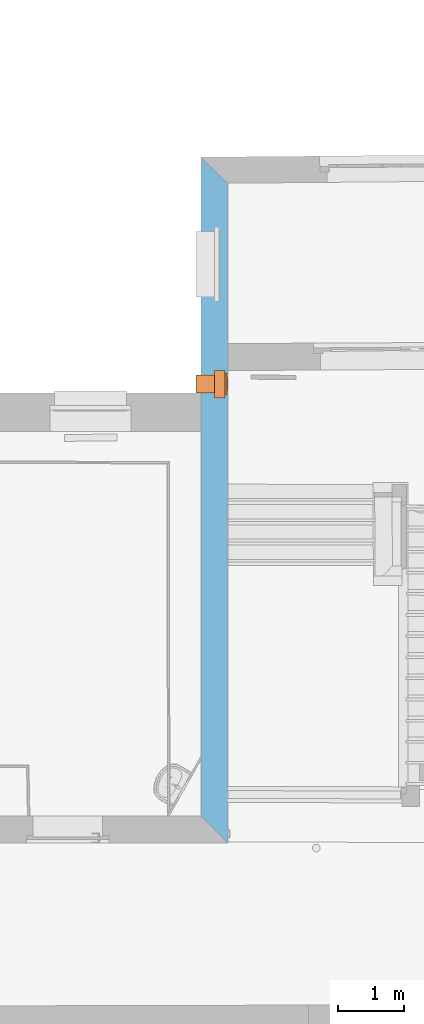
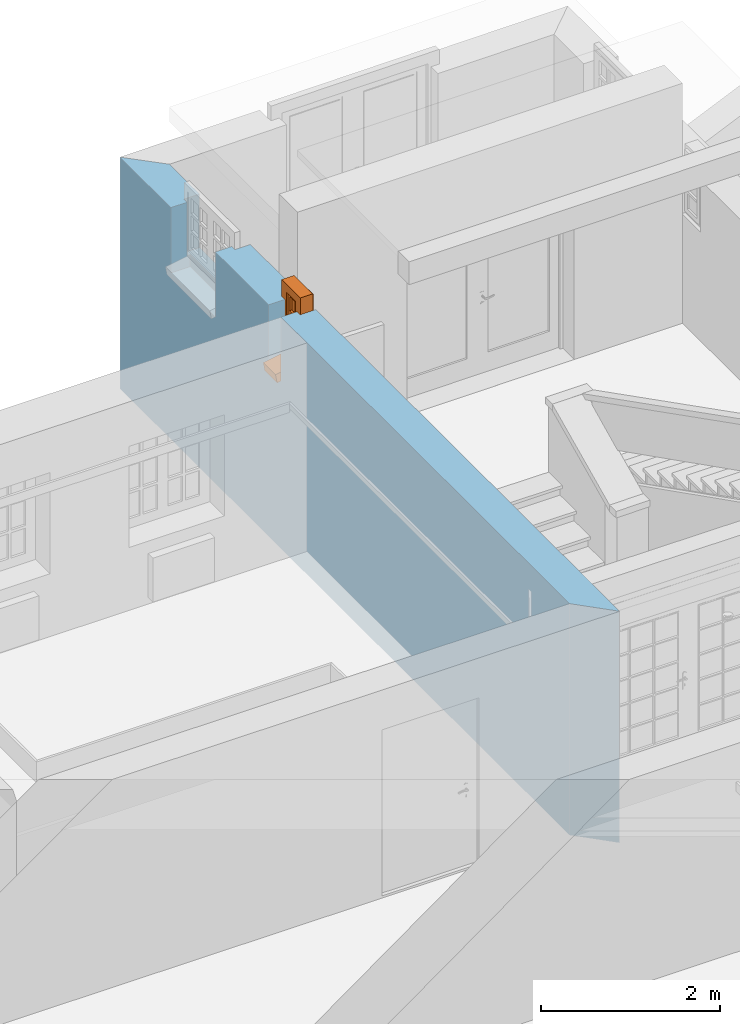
# One storey, part 29 of 196: 1 proxy, 2 openings, plus 1 element that does not belong to this part.
"""IFC2X3 building model written with IfcOpenShell, lengths in metres."""

import ifcopenshell
import ifcopenshell.guid

model = None  # the IFC model being written
_history = None  # IfcOwnerHistory: only IFC2X3 demands one
_inside = {}  # id of a spatial element -> (the spatial element, [elements in it])
_under = {}  # id of a project, library or spatial element -> (it, [spatial elements below it])
_declared = {}  # id of a project -> (the project, [libraries it declares])
_typed = {}  # id of a type object -> (the type object, [elements of that type])
_made_of = {}  # id of a material, layer set ... -> (it, [elements and type objects made of it])


def new_model(schema):
    """Start an empty IFC model of exactly this schema.

    Asked for "IFC4X3", IfcOpenShell would pick the latest addendum, in which some entities
    have other attributes; the version numbers below select the first issue.
    IFC2X3 requires an IfcOwnerHistory on every rooted entity: one is made here for all.
    """
    global model, _history
    if schema == "IFC4X3":
        model = ifcopenshell.file(schema_version=(4, 3, 0, 0))
    else:
        model = ifcopenshell.file(schema=schema)
    _inside.clear()
    _under.clear()
    _declared.clear()
    _typed.clear()
    _made_of.clear()
    _history = None
    if model.schema == "IFC2X3":
        org = make("IfcOrganization", Name="unknown")
        user = make(
            "IfcPersonAndOrganization",
            ThePerson=make("IfcPerson", FamilyName="unknown"),
            TheOrganization=org,
        )
        app = make(
            "IfcApplication",
            ApplicationDeveloper=org,
            Version="unknown",
            ApplicationFullName="unknown",
            ApplicationIdentifier="unknown",
        )
        _history = make(
            "IfcOwnerHistory",
            OwningUser=user,
            OwningApplication=app,
            ChangeAction="ADDED",
            CreationDate=0,
        )
    return model


def make(cls, **values):
    """One entity of the class cls with the attributes given. An attribute that is None is left unset."""
    return model.create_entity(
        cls, **{name: value for name, value in values.items() if value is not None}
    )


def entity(cls, *values):
    """Any entity or typed value of the class cls, its attributes in the order of the schema. None: left unset."""
    e = model.create_entity(cls)
    for i, value in enumerate(values):
        if value is not None:
            e[i] = value
    return e


def rooted(cls, **values):
    """An entity with a GlobalId (a new one), such as an element, a storey or a relation."""
    return make(cls, GlobalId=ifcopenshell.guid.new(), OwnerHistory=_history, **values)


def si_unit(unit_type, name, prefix=None):
    """IfcSIUnit, for example si_unit("LENGTHUNIT", "METRE", prefix="MILLI")."""
    return make("IfcSIUnit", UnitType=unit_type, Prefix=prefix, Name=name)


def converted_unit(unit_type, name, factor, base, dimensions=None, offset=None):
    """IfcConversionBasedUnit, such as the inch: factor (a typed value) times the base unit."""
    return make(
        "IfcConversionBasedUnit"
        if offset is None
        else "IfcConversionBasedUnitWithOffset",
        ConversionOffset=offset,
        Dimensions=None
        if dimensions is None
        else entity("IfcDimensionalExponents", *dimensions),
        UnitType=unit_type,
        Name=name,
        ConversionFactor=make(
            "IfcMeasureWithUnit", ValueComponent=factor, UnitComponent=base
        ),
    )


def derived_unit(unit_type, elements):
    """IfcDerivedUnit: a product of units, each with its exponent."""
    return make(
        "IfcDerivedUnit",
        Elements=[
            make("IfcDerivedUnitElement", Unit=unit, Exponent=power)
            for unit, power in elements
        ],
        UnitType=unit_type,
    )


def money_unit(currency):
    """IfcMonetaryUnit."""
    return make("IfcMonetaryUnit", Currency=currency)


def assignment(units):
    """IfcUnitAssignment: the units of a project."""
    return None if units is None else make("IfcUnitAssignment", Units=units)


def point(xyz):
    """IfcCartesianPoint."""
    return None if xyz is None else make("IfcCartesianPoint", Coordinates=xyz)


def direction(xyz):
    """IfcDirection."""
    return None if xyz is None else make("IfcDirection", DirectionRatios=xyz)


def frame(location, z_axis=None, x_axis=None):
    """IfcAxis2Placement3D, a coordinate frame: its origin and axes. An axis left out is left unset."""
    return make(
        "IfcAxis2Placement3D",
        Location=point(location),
        Axis=direction(z_axis),
        RefDirection=direction(x_axis),
    )


def frame_2d(location, x_axis=None):
    """IfcAxis2Placement2D, a coordinate frame in the plane: its origin and x axis."""
    return make(
        "IfcAxis2Placement2D", Location=point(location), RefDirection=direction(x_axis)
    )


def origin_with_axes():
    """The frame at (0, 0, 0) with the z axis (0, 0, 1) and the x axis (1, 0, 0) written out."""
    return frame((0.0, 0.0, 0.0), z_axis=(0.0, 0.0, 1.0), x_axis=(1.0, 0.0, 0.0))


def origin_2d_with_axis():
    """The frame at (0, 0) in the plane with the x axis (1, 0) written out."""
    return frame_2d((0.0, 0.0), x_axis=(1.0, 0.0))


def place(relative_to, where):
    """IfcLocalPlacement: puts the frame where relative to a parent placement (None: the world)."""
    return make(
        "IfcLocalPlacement", PlacementRelTo=relative_to, RelativePlacement=where
    )


def context(
    kind, dimensions, precision=None, world=None, true_north=None, identifier=None
):
    """IfcGeometricRepresentationContext, for example the 3D "Model" context."""
    return make(
        "IfcGeometricRepresentationContext",
        ContextIdentifier=identifier,
        ContextType=kind,
        CoordinateSpaceDimension=dimensions,
        Precision=precision,
        WorldCoordinateSystem=world,
        TrueNorth=true_north,
    )


def subcontext(parent, identifier, kind, view, scale=None):
    """IfcGeometricRepresentationSubContext, for example "Body" below "Model"."""
    return make(
        "IfcGeometricRepresentationSubContext",
        ContextIdentifier=identifier,
        ContextType=kind,
        ParentContext=parent,
        TargetScale=scale,
        TargetView=view,
    )


def project(units=None, contexts=None):
    """IfcProject with its units and contexts."""
    return rooted(
        "IfcProject",
        Name="project",
        RepresentationContexts=contexts,
        UnitsInContext=assignment(units),
    )


def spatial(cls, under=None, at=None, **own):
    """A site, building, storey or space (cls), placed at a placement, below another one or the project."""
    s = rooted(cls, ObjectPlacement=at, **own)
    if under is not None:
        _under.setdefault(under.id(), (under, []))[1].append(s)
    return s


def polyline(points):
    """IfcPolyline through the points."""
    return make("IfcPolyline", Points=[point(p) for p in points])


def profile(cls, at=None, kind="AREA", **sizes):
    """A parametric profile (cls). Its sizes go by their IFC names, for example OverallWidth=200.0."""
    return make(cls, ProfileType=kind, Position=at, **sizes)


def rectangle(**sizes):
    """IfcRectangleProfileDef."""
    return profile("IfcRectangleProfileDef", **sizes)


def outline(outer, holes=None, kind="AREA"):
    """IfcArbitraryClosedProfileDef: a profile drawn as a closed curve; with holes, ...WithVoids."""
    if holes is None:
        return make("IfcArbitraryClosedProfileDef", ProfileType=kind, OuterCurve=outer)
    return make(
        "IfcArbitraryProfileDefWithVoids",
        ProfileType=kind,
        OuterCurve=outer,
        InnerCurves=holes,
    )


def extrude(swept, where, along, depth):
    """IfcExtrudedAreaSolid: the profile swept, set in the frame where, extruded along a direction by depth."""
    return make(
        "IfcExtrudedAreaSolid",
        SweptArea=swept,
        Position=where,
        ExtrudedDirection=direction(along),
        Depth=depth,
    )


def faces_of(points, faces, orient=None, outer=None):
    """IfcFace entities. A face is a list of loops; a loop is a list of indices into points, from 0.

    orient and outer hold one flag for each loop. By default every Orientation is true, the
    first loop of a face is its IfcFaceOuterBound and the others are IfcFaceBound.
    """
    made = []
    for i, loops in enumerate(faces):
        bounds = []
        for j, loop in enumerate(loops):
            is_outer = j == 0 if outer is None else outer[i][j]
            bounds.append(
                make(
                    "IfcFaceOuterBound" if is_outer else "IfcFaceBound",
                    Bound=make("IfcPolyLoop", Polygon=[points[k] for k in loop]),
                    Orientation=True if orient is None else orient[i][j],
                )
            )
        made.append(make("IfcFace", Bounds=bounds))
    return made


def faceted_brep(points, faces, orient=None, outer=None, voids=None):
    """IfcFacetedBrep: a solid bounded by flat faces; with voids (closed shells), ...WithVoids."""
    shared = [point(p) for p in points]
    hull = make("IfcClosedShell", CfsFaces=faces_of(shared, faces, orient, outer))
    if voids is None:
        return make("IfcFacetedBrep", Outer=hull)
    return make(
        "IfcFacetedBrepWithVoids",
        Outer=hull,
        Voids=[
            make(cls, CfsFaces=faces_of(shared, fs, o, b)) for cls, fs, o, b in voids
        ],
    )


def shape(context_of_items, identifier, shape_type, items):
    """IfcShapeRepresentation: the items that make up one representation, for example the "Body"."""
    return make(
        "IfcShapeRepresentation",
        ContextOfItems=context_of_items,
        RepresentationIdentifier=identifier,
        RepresentationType=shape_type,
        Items=items,
    )


def source(mapping_origin, context_of_items, identifier, shape_type, items):
    """IfcRepresentationMap: a shape defined once, which mapped items show again and again."""
    return make(
        "IfcRepresentationMap",
        MappingOrigin=mapping_origin,
        MappedRepresentation=shape(context_of_items, identifier, shape_type, items),
    )


def transform(
    local_origin,
    x_axis=None,
    y_axis=None,
    z_axis=None,
    scale=None,
    scale2=None,
    scale3=None,
    uniform=True,
):
    """IfcCartesianTransformationOperator3D, or its non-uniform kind. x_axis, y_axis, z_axis: its Axis1, 2, 3."""
    if uniform:
        return make(
            "IfcCartesianTransformationOperator3D",
            Axis1=direction(x_axis),
            Axis2=direction(y_axis),
            LocalOrigin=point(local_origin),
            Scale=scale,
            Axis3=direction(z_axis),
        )
    return make(
        "IfcCartesianTransformationOperator3DnonUniform",
        Axis1=direction(x_axis),
        Axis2=direction(y_axis),
        LocalOrigin=point(local_origin),
        Scale=scale,
        Axis3=direction(z_axis),
        Scale2=scale2,
        Scale3=scale3,
    )


def mapped(mapping_source, mapping_target):
    """IfcMappedItem: shows the shape of a source again, moved by a transform."""
    return make(
        "IfcMappedItem", MappingSource=mapping_source, MappingTarget=mapping_target
    )


def material(Name=None, Category=None):
    """IfcMaterial."""
    return make("IfcMaterial", Name=Name, Category=Category)


def layer(
    of_material, thickness, ventilated=None, Name=None, Category=None, Priority=None
):
    """IfcMaterialLayer: one layer of a wall or slab, of a material (None: an air gap)."""
    return make(
        "IfcMaterialLayer",
        Material=of_material,
        LayerThickness=thickness,
        IsVentilated=ventilated,
        Name=Name,
        Category=Category,
        Priority=Priority,
    )


def layer_set(layers, Name=None):
    """IfcMaterialLayerSet."""
    return make("IfcMaterialLayerSet", MaterialLayers=layers, LayerSetName=Name)


def layer_usage(for_layer_set, set_direction, sense, offset, extent=None):
    """IfcMaterialLayerSetUsage: how a layer set lies in its element."""
    return make(
        "IfcMaterialLayerSetUsage",
        ForLayerSet=for_layer_set,
        LayerSetDirection=set_direction,
        DirectionSense=sense,
        OffsetFromReferenceLine=offset,
        ReferenceExtent=extent,
    )


def made_of(thing, what):
    """Note that an element or type object is made of a material, layer set ...; save() writes the relation."""
    if what is not None:
        _made_of.setdefault(what.id(), (what, []))[1].append(thing)
    return thing


def type_object(cls, material=None, **own):
    """A type object (cls), such as IfcWallType, which elements share."""
    return made_of(rooted(cls, **own), material)


def element(
    cls,
    number,
    at=None,
    inside=None,
    cuts=None,
    type_object=None,
    material=None,
    context=None,
    identifier="Body",
    shape_type=None,
    held_by="IfcProductDefinitionShape",
    body=None,
    shapes=None,
    **own,
):
    """One element of the class cls, such as IfcWall. Its Tag is "e" and its number.

    at: its placement. inside: the storey or other place that contains it. cuts: it is an
    opening in that element (IfcRelVoidsElement). A single representation is given by context,
    identifier, shape_type and body (its items); several are given by shapes. held_by: the class
    of the entity that holds the representations. save() writes the other relations.
    """
    e = rooted(cls, Tag="e%d" % number, ObjectPlacement=at, **own)
    if body is not None:
        shapes = [shape(context, identifier, shape_type, body)]
    if shapes is not None:
        e.Representation = make(held_by, Representations=shapes)
    if inside is not None:
        _inside.setdefault(inside.id(), (inside, []))[1].append(e)
    if cuts is not None:
        rooted(
            "IfcRelVoidsElement", RelatingBuildingElement=cuts, RelatedOpeningElement=e
        )
    if type_object is not None:
        _typed.setdefault(type_object.id(), (type_object, []))[1].append(e)
    return made_of(e, material)


def fill(opening, filler):
    """IfcRelFillsElement: the door or window that sits in an opening."""
    return rooted(
        "IfcRelFillsElement",
        RelatingOpeningElement=opening,
        RelatedBuildingElement=filler,
    )


def aggregate(whole, parts):
    """IfcRelAggregates: a whole, such as a stair, and the parts it consists of."""
    return rooted("IfcRelAggregates", RelatingObject=whole, RelatedObjects=parts)


def save(model, path):
    """Write the relations noted so far, then the file.

    IfcRelAggregates (storeys below a building ...), IfcRelContainedInSpatialStructure (elements
    in a storey), IfcRelDefinesByType, IfcRelAssociatesMaterial and IfcRelDeclares: one each for
    every whole, place, type object, material and project.
    """
    for whole, parts in _under.values():
        aggregate(whole, parts)
    for where, things in _inside.values():
        rooted(
            "IfcRelContainedInSpatialStructure",
            RelatedElements=things,
            RelatingStructure=where,
        )
    for kind, things in _typed.values():
        rooted("IfcRelDefinesByType", RelatedObjects=things, RelatingType=kind)
    for what, things in _made_of.values():
        rooted("IfcRelAssociatesMaterial", RelatedObjects=things, RelatingMaterial=what)
    for by, libraries in _declared.values():
        rooted("IfcRelDeclares", RelatingContext=by, RelatedDefinitions=libraries)
    model.write(path)


model = new_model("IFC2X3")

# Units and contexts
model_context = context("Model", 3, precision=1e-05, world=origin_with_axes(), true_north=direction((0.0, 1.0)))
body_context = subcontext(model_context, "Body", "Model", "MODEL_VIEW")
ifc_project = project(units=[si_unit("LENGTHUNIT", "METRE"), si_unit("AREAUNIT", "SQUARE_METRE"), si_unit("VOLUMEUNIT", "CUBIC_METRE"), converted_unit("PLANEANGLEUNIT", "DEGREE", entity("IfcPlaneAngleMeasure", 0.0174532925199), si_unit("PLANEANGLEUNIT", "RADIAN"), dimensions=[0, 0, 0, 0, 0, 0, 0]), money_unit("EUR"), converted_unit("TIMEUNIT", "Year", entity("IfcTimeMeasure", 31556926.0), si_unit("TIMEUNIT", "SECOND"), dimensions=[0, 0, 1, 0, 0, 0, 0]), si_unit("MASSUNIT", "GRAM", prefix="KILO"), si_unit("THERMODYNAMICTEMPERATUREUNIT", "DEGREE_CELSIUS"), si_unit("LUMINOUSINTENSITYUNIT", "LUMEN"), si_unit("ENERGYUNIT", "JOULE", prefix="MEGA"), derived_unit("THERMALCONDUCTANCEUNIT", [(si_unit("POWERUNIT", "WATT"), 1), (si_unit("LENGTHUNIT", "METRE"), -1), (si_unit("THERMODYNAMICTEMPERATUREUNIT", "KELVIN"), -1)]), derived_unit("SPECIFICHEATCAPACITYUNIT", [(si_unit("ENERGYUNIT", "JOULE"), 1), (si_unit("MASSUNIT", "GRAM", prefix="KILO"), -1), (si_unit("THERMODYNAMICTEMPERATUREUNIT", "KELVIN"), -1)]), derived_unit("MASSDENSITYUNIT", [(si_unit("MASSUNIT", "GRAM", prefix="KILO"), 1), (si_unit("VOLUMEUNIT", "CUBIC_METRE"), -1)])], contexts=[model_context])

# Site, building, storey
site_placement = place(None, origin_with_axes())
site = spatial("IfcSite", under=ifc_project, at=site_placement, Name="Gelände", CompositionType="ELEMENT")
building_placement = place(site_placement, origin_with_axes())
building = spatial("IfcBuilding", under=site, at=building_placement, Name="Gebäude", CompositionType="ELEMENT")
storey_placement = place(building_placement, frame((0.0, 0.0, -3.0), z_axis=(0.0, 0.0, 1.0), x_axis=(1.0, 0.0, 0.0)))
storey = spatial("IfcBuildingStorey", under=building, at=storey_placement, Name="KELLERGESCHOSS", CompositionType="ELEMENT", Elevation=-3.0)

# Wall, openings, proxy
ifc_material = material(Name="05_ALLGEMEIN - TRAGENDE BAUTEILE")
ifc_layer = layer(ifc_material, 0.41, ventilated="UNKNOWN")
ifc_layer_set = layer_set([ifc_layer], Name="05_ALLGEMEIN - TRAGENDE BAUTEILE 0.41")
ifc_layer_usage = layer_usage(ifc_layer_set, "AXIS2", "NEGATIVE", 0.41)
wall_type = type_object("IfcWallType", Name="05_ALLGEMEIN - TRAGENDE BAUTEILE 410", PredefinedType="ELEMENTEDWALL")
wall_placement = place(storey_placement, frame((-9.84148103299, 19.2659840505, -0.36), z_axis=(0.0, 0.0, 1.0), x_axis=(-9.41336570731e-05, 0.999999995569, 0.0)))
wall = element("IfcWallStandardCase", 1, at=wall_placement, inside=storey, type_object=wall_type, material=ifc_layer_usage, Name="Wand-038", ObjectType="ELEMENTEDWALL", context=body_context, shape_type="SweptSolid", body=[
    extrude(outline(polyline([(0.0, 0.0), (10.0297381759, 0.0), (10.426267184, 0.41), (0.409925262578, 0.41), (0.0, 0.0)])), origin_with_axes(), (0.0, 0.0, 1.0), 3.15),
])
opening_1_placement = place(wall_placement, frame((8.79632693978, 0.0, 2.42470466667), z_axis=(0.0, 0.0, 1.0), x_axis=(1.0, 0.0, 0.0)))
element("IfcOpeningElement", 2, at=opening_1_placement, cuts=wall, Name="Fenster-015", context=body_context, shape_type="SweptSolid", body=[
    extrude(rectangle(XDim=0.991326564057, YDim=0.884032, at=origin_2d_with_axis()), frame((0.0, 0.201578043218, 0.442016), z_axis=(0.0, -1.0, 0.0), x_axis=(-1.0, 0.0, 0.0)), (0.0, 0.0, -1.0), 0.618421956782),
    extrude(rectangle(XDim=1.13132656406, YDim=0.954032, at=origin_2d_with_axis()), frame((0.0, 0.201578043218, 0.477016), z_axis=(0.0, 1.0, 0.0), x_axis=(-1.0, 0.0, 0.0)), (0.0, 0.0, -1.0), 0.611578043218),
    extrude(rectangle(XDim=0.991326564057, YDim=0.162128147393, at=origin_2d_with_axis()), frame((0.0, 0.160740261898, -0.0810640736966), z_axis=(0.0, -1.0, 0.0), x_axis=(-1.0, 0.0, 0.0)), (0.0, 0.0, -1.0), 0.45083778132),
])
opening_2_placement = place(wall_placement, frame((6.97472393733, 0.0, 2.44235066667), z_axis=(0.0, 0.0, 1.0), x_axis=(1.0, 0.0, 0.0)))
opening_2 = element("IfcOpeningElement", 3, at=opening_2_placement, cuts=wall, Name="Fenster-015", context=body_context, shape_type="SweptSolid", body=[
    extrude(rectangle(XDim=0.274211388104, YDim=0.866964, at=origin_2d_with_axis()), frame((0.0, 0.201578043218, 0.433482), z_axis=(0.0, -1.0, 0.0), x_axis=(-1.0, 0.0, 0.0)), (0.0, 0.0, -1.0), 0.618421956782),
    extrude(rectangle(XDim=0.414211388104, YDim=0.936964, at=origin_2d_with_axis()), frame((0.0, 0.201578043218, 0.468482), z_axis=(0.0, 1.0, 0.0), x_axis=(-1.0, 0.0, 0.0)), (0.0, 0.0, -1.0), 0.611578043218),
    extrude(rectangle(XDim=0.274211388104, YDim=0.162128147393, at=origin_2d_with_axis()), frame((0.0, 0.160740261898, -0.0810640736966), z_axis=(0.0, -1.0, 0.0), x_axis=(-1.0, 0.0, 0.0)), (0.0, 0.0, -1.0), 0.45083778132),
])
building_element_proxy_type = type_object("IfcBuildingElementProxyType", Name="F Altbau 1-Fl 25", PredefinedType="NOTDEFINED")
shared_shape = source(origin_with_axes(), body_context, "Body", "Brep", [
    faceted_brep([(-0.137105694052, -0.14, 0.0), (-0.137105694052, -0.439259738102, -0.0527675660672), (0.137105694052, -0.439259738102, -0.0527675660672), (0.137105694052, -0.14, 0.0), (-0.137105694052, -0.11916221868, -0.118176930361), (-0.137105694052, -0.418421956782, -0.170944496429), (0.137105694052, -0.418421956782, -0.170944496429), (0.137105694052, -0.11916221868, -0.118176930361)], [[[0, 1, 2, 3]], [[0, 4, 5, 1]], [[1, 5, 6, 2]], [[3, 2, 6, 7]], [[4, 0, 3, 7]], [[5, 4, 7, 6]]]),
    faceted_brep([(-0.207105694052, -0.16, 0.0), (-0.207105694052, -0.14, 0.0), (-0.0971056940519, -0.14, 0.09), (-0.0971056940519, -0.16, 0.09), (-0.207105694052, -0.16, 0.936964), (-0.207105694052, -0.14, 0.936964), (-0.0971056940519, -0.14, 0.826964), (-0.0971056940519, -0.16, 0.826964)], [[[0, 1, 2, 3]], [[4, 5, 1, 0]], [[1, 5, 6, 2]], [[3, 2, 6, 7]], [[0, 3, 7, 4]], [[7, 6, 5, 4]]]),
    faceted_brep([(0.207105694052, -0.16, 0.0), (0.0971056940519, -0.16, 0.09), (0.0971056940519, -0.14, 0.09), (0.207105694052, -0.14, 0.0), (0.207105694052, -0.16, 0.936964), (0.0971056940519, -0.16, 0.826964), (0.0971056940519, -0.14, 0.826964), (0.207105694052, -0.14, 0.936964)], [[[0, 1, 2, 3]], [[0, 4, 5, 1]], [[1, 5, 6, 2]], [[3, 2, 6, 7]], [[4, 0, 3, 7]], [[5, 4, 7, 6]]]),
    faceted_brep([(-0.207105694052, -0.16, 0.0), (-0.207105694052, -0.14, 0.0), (0.207105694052, -0.14, 0.0), (0.207105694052, -0.16, 0.0), (-0.0971056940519, -0.16, 0.09), (-0.0971056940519, -0.14, 0.09), (0.0971056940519, -0.14, 0.09), (0.0971056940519, -0.16, 0.09)], [[[0, 1, 2, 3]], [[4, 5, 1, 0]], [[1, 5, 6, 2]], [[3, 2, 6, 7]], [[0, 3, 7, 4]], [[7, 6, 5, 4]]]),
    faceted_brep([(-0.207105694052, -0.16, 0.936964), (-0.207105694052, -0.14, 0.936964), (-0.0971056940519, -0.14, 0.826964), (-0.0971056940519, -0.16, 0.826964), (0.207105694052, -0.16, 0.936964), (0.207105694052, -0.14, 0.936964), (0.0971056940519, -0.14, 0.826964), (0.0971056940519, -0.16, 0.826964)], [[[0, 1, 2, 3]], [[4, 5, 1, 0]], [[1, 5, 6, 2]], [[3, 2, 6, 7]], [[0, 3, 7, 4]], [[7, 6, 5, 4]]]),
    faceted_brep([(-0.207105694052, -0.14, 0.0), (-0.207105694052, -0.11, 0.0), (0.207105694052, -0.11, 0.0), (0.207105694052, -0.14, 0.0), (-0.207105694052, -0.14, 0.936964), (-0.207105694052, -0.11, 0.936964), (0.207105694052, -0.11, 0.936964), (-0.117105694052, -0.11, 0.09), (0.117105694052, -0.11, 0.09), (0.117105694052, -0.11, 0.846964), (-0.117105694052, -0.11, 0.846964), (0.207105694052, -0.14, 0.936964), (-0.117105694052, -0.14, 0.09), (-0.117105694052, -0.14, 0.846964), (0.117105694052, -0.14, 0.846964), (0.117105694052, -0.14, 0.09)], [[[0, 1, 2, 3]], [[4, 5, 1, 0]], [[1, 5, 6, 2], [7, 8, 9, 10]], [[3, 2, 6, 11]], [[0, 3, 11, 4], [12, 13, 14, 15]], [[11, 6, 5, 4]], [[15, 8, 7, 12]], [[14, 9, 8, 15]], [[13, 10, 9, 14]], [[12, 7, 10, 13]]]),
    faceted_brep([(-0.207105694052, -0.11, 0.0), (-0.207105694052, -0.03, 0.0), (0.207105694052, -0.03, 0.0), (0.207105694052, -0.11, 0.0), (-0.207105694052, -0.11, 0.936964), (-0.207105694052, -0.03, 0.936964), (0.207105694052, -0.03, 0.936964), (-0.147105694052, -0.03, 0.06), (0.147105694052, -0.03, 0.06), (0.147105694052, -0.03, 0.876964), (-0.147105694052, -0.03, 0.876964), (0.207105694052, -0.11, 0.936964), (-0.147105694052, -0.11, 0.06), (-0.147105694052, -0.11, 0.876964), (0.147105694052, -0.11, 0.876964), (0.147105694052, -0.11, 0.06)], [[[0, 1, 2, 3]], [[4, 5, 1, 0]], [[1, 5, 6, 2], [7, 8, 9, 10]], [[3, 2, 6, 11]], [[0, 3, 11, 4], [12, 13, 14, 15]], [[11, 6, 5, 4]], [[15, 8, 7, 12]], [[14, 9, 8, 15]], [[13, 10, 9, 14]], [[12, 7, 10, 13]]]),
    faceted_brep([(-0.207105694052, -0.03, 0.0), (-0.207105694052, 0.0, 0.0), (-0.167105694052, 0.0, 0.06), (-0.167105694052, -0.03, 0.06), (-0.207105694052, -0.03, 0.936964), (-0.207105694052, 0.0, 0.936964), (-0.167105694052, 0.0, 0.896964), (-0.167105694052, -0.03, 0.896964)], [[[0, 1, 2, 3]], [[4, 5, 1, 0]], [[1, 5, 6, 2]], [[3, 2, 6, 7]], [[0, 3, 7, 4]], [[7, 6, 5, 4]]]),
    faceted_brep([(0.207105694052, -0.03, 0.0), (0.167105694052, -0.03, 0.06), (0.167105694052, 0.0, 0.06), (0.207105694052, 0.0, 0.0), (0.207105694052, -0.03, 0.936964), (0.167105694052, -0.03, 0.896964), (0.167105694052, 0.0, 0.896964), (0.207105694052, 0.0, 0.936964)], [[[0, 1, 2, 3]], [[0, 4, 5, 1]], [[1, 5, 6, 2]], [[3, 2, 6, 7]], [[4, 0, 3, 7]], [[5, 4, 7, 6]]]),
    faceted_brep([(-0.207105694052, -0.03, 0.0), (-0.207105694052, 0.0, 0.0), (0.207105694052, 0.0, 0.0), (0.207105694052, -0.03, 0.0), (-0.167105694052, -0.03, 0.06), (-0.167105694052, 0.0, 0.06), (0.167105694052, 0.0, 0.06), (0.167105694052, -0.03, 0.06)], [[[0, 1, 2, 3]], [[4, 5, 1, 0]], [[1, 5, 6, 2]], [[3, 2, 6, 7]], [[0, 3, 7, 4]], [[7, 6, 5, 4]]]),
    faceted_brep([(-0.207105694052, -0.03, 0.936964), (-0.207105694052, 0.0, 0.936964), (-0.167105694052, 0.0, 0.896964), (-0.167105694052, -0.03, 0.896964), (0.207105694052, -0.03, 0.936964), (0.207105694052, 0.0, 0.936964), (0.167105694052, 0.0, 0.896964), (0.167105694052, -0.03, 0.896964)], [[[0, 1, 2, 3]], [[4, 5, 1, 0]], [[1, 5, 6, 2]], [[3, 2, 6, 7]], [[0, 3, 7, 4]], [[7, 6, 5, 4]]]),
    faceted_brep([(-0.117105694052, -0.14, 0.09), (-0.117105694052, -0.11, 0.09), (-0.0571056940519, -0.11, 0.15), (-0.0571056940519, -0.14, 0.15), (-0.117105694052, -0.14, 0.846964), (-0.117105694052, -0.11, 0.846964), (-0.0571056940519, -0.11, 0.786964), (-0.0571056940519, -0.14, 0.786964)], [[[0, 1, 2, 3]], [[4, 5, 1, 0]], [[1, 5, 6, 2]], [[3, 2, 6, 7]], [[0, 3, 7, 4]], [[7, 6, 5, 4]]]),
    faceted_brep([(-0.117105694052, -0.11, 0.09), (-0.117105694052, -0.08, 0.09), (-0.0571056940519, -0.08, 0.15), (-0.0571056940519, -0.11, 0.15), (-0.117105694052, -0.11, 0.846964), (-0.117105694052, -0.08, 0.846964), (-0.0571056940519, -0.08, 0.786964), (-0.0571056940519, -0.11, 0.786964)], [[[0, 1, 2, 3]], [[4, 5, 1, 0]], [[1, 5, 6, 2]], [[3, 2, 6, 7]], [[0, 3, 7, 4]], [[7, 6, 5, 4]]]),
    faceted_brep([(0.117105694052, -0.14, 0.09), (0.0571056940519, -0.14, 0.15), (0.0571056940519, -0.11, 0.15), (0.117105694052, -0.11, 0.09), (0.117105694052, -0.14, 0.846964), (0.0571056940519, -0.14, 0.786964), (0.0571056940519, -0.11, 0.786964), (0.117105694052, -0.11, 0.846964)], [[[0, 1, 2, 3]], [[0, 4, 5, 1]], [[1, 5, 6, 2]], [[3, 2, 6, 7]], [[4, 0, 3, 7]], [[5, 4, 7, 6]]]),
    faceted_brep([(0.117105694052, -0.11, 0.09), (0.0571056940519, -0.11, 0.15), (0.0571056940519, -0.08, 0.15), (0.117105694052, -0.08, 0.09), (0.117105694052, -0.11, 0.846964), (0.0571056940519, -0.11, 0.786964), (0.0571056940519, -0.08, 0.786964), (0.117105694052, -0.08, 0.846964)], [[[0, 1, 2, 3]], [[0, 4, 5, 1]], [[1, 5, 6, 2]], [[3, 2, 6, 7]], [[4, 0, 3, 7]], [[5, 4, 7, 6]]]),
    faceted_brep([(-0.117105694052, -0.14, 0.09), (-0.117105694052, -0.11, 0.09), (0.117105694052, -0.11, 0.09), (0.117105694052, -0.14, 0.09), (-0.0571056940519, -0.14, 0.15), (-0.0571056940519, -0.11, 0.15), (0.0571056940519, -0.11, 0.15), (0.0571056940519, -0.14, 0.15)], [[[0, 1, 2, 3]], [[4, 5, 1, 0]], [[1, 5, 6, 2]], [[3, 2, 6, 7]], [[0, 3, 7, 4]], [[7, 6, 5, 4]]]),
    faceted_brep([(-0.117105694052, -0.11, 0.09), (-0.117105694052, -0.08, 0.09), (0.117105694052, -0.08, 0.09), (0.117105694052, -0.11, 0.09), (-0.0571056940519, -0.11, 0.15), (-0.0571056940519, -0.08, 0.15), (0.0571056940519, -0.08, 0.15), (0.0571056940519, -0.11, 0.15)], [[[0, 1, 2, 3]], [[4, 5, 1, 0]], [[1, 5, 6, 2]], [[3, 2, 6, 7]], [[0, 3, 7, 4]], [[7, 6, 5, 4]]]),
    faceted_brep([(-0.117105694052, -0.14, 0.846964), (0.117105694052, -0.14, 0.846964), (0.117105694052, -0.11, 0.846964), (-0.117105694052, -0.11, 0.846964), (-0.0571056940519, -0.14, 0.786964), (0.0571056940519, -0.14, 0.786964), (0.0571056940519, -0.11, 0.786964), (-0.0571056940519, -0.11, 0.786964)], [[[0, 1, 2, 3]], [[0, 4, 5, 1]], [[1, 5, 6, 2]], [[3, 2, 6, 7]], [[4, 0, 3, 7]], [[5, 4, 7, 6]]]),
    faceted_brep([(-0.117105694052, -0.11, 0.846964), (0.117105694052, -0.11, 0.846964), (0.117105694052, -0.08, 0.846964), (-0.117105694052, -0.08, 0.846964), (-0.0571056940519, -0.11, 0.786964), (0.0571056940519, -0.11, 0.786964), (0.0571056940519, -0.08, 0.786964), (-0.0571056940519, -0.08, 0.786964)], [[[0, 1, 2, 3]], [[0, 4, 5, 1]], [[1, 5, 6, 2]], [[3, 2, 6, 7]], [[4, 0, 3, 7]], [[5, 4, 7, 6]]]),
    faceted_brep([(-0.0571056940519, -0.145, 0.338988), (-0.0571056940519, -0.11, 0.338988), (0.0571056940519, -0.11, 0.338988), (0.0571056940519, -0.145, 0.338988), (-0.0571056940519, -0.145, 0.373988), (-0.0571056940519, -0.11, 0.373988), (0.0571056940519, -0.11, 0.373988), (0.0571056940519, -0.145, 0.373988)], [[[0, 1, 2, 3]], [[4, 5, 1, 0]], [[1, 5, 6, 2]], [[3, 2, 6, 7]], [[0, 3, 7, 4]], [[7, 6, 5, 4]]]),
    faceted_brep([(-0.0571056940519, -0.11, 0.338988), (-0.0571056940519, -0.075, 0.338988), (0.0571056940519, -0.075, 0.338988), (0.0571056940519, -0.11, 0.338988), (-0.0571056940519, -0.11, 0.373988), (-0.0571056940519, -0.075, 0.373988), (0.0571056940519, -0.075, 0.373988), (0.0571056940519, -0.11, 0.373988)], [[[0, 1, 2, 3]], [[4, 5, 1, 0]], [[1, 5, 6, 2]], [[3, 2, 6, 7]], [[0, 3, 7, 4]], [[7, 6, 5, 4]]]),
    faceted_brep([(-0.0571056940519, -0.145, 0.562976), (-0.0571056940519, -0.11, 0.562976), (0.0571056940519, -0.11, 0.562976), (0.0571056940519, -0.145, 0.562976), (-0.0571056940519, -0.145, 0.597976), (-0.0571056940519, -0.11, 0.597976), (0.0571056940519, -0.11, 0.597976), (0.0571056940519, -0.145, 0.597976)], [[[0, 1, 2, 3]], [[4, 5, 1, 0]], [[1, 5, 6, 2]], [[3, 2, 6, 7]], [[0, 3, 7, 4]], [[7, 6, 5, 4]]]),
    faceted_brep([(-0.0571056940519, -0.11, 0.562976), (-0.0571056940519, -0.075, 0.562976), (0.0571056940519, -0.075, 0.562976), (0.0571056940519, -0.11, 0.562976), (-0.0571056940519, -0.11, 0.597976), (-0.0571056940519, -0.075, 0.597976), (0.0571056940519, -0.075, 0.597976), (0.0571056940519, -0.11, 0.597976)], [[[0, 1, 2, 3]], [[4, 5, 1, 0]], [[1, 5, 6, 2]], [[3, 2, 6, 7]], [[0, 3, 7, 4]], [[7, 6, 5, 4]]]),
    faceted_brep([(0.0571056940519, -0.105, 0.562976), (0.0571056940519, -0.115, 0.562976), (0.0571056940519, -0.115, 0.373988), (0.0571056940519, -0.105, 0.373988), (-0.0571056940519, -0.115, 0.562976), (-0.0571056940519, -0.105, 0.562976), (-0.0571056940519, -0.115, 0.373988), (-0.0571056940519, -0.105, 0.373988)], [[[0, 1, 2, 3]], [[4, 1, 0, 5]], [[1, 4, 6, 2]], [[2, 6, 7, 3]], [[5, 0, 3, 7]], [[4, 5, 7, 6]]]),
    faceted_brep([(0.0571056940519, -0.115, 0.15), (0.0571056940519, -0.105, 0.15), (0.0571056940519, -0.105, 0.338988), (0.0571056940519, -0.115, 0.338988), (-0.0571056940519, -0.115, 0.15), (-0.0571056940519, -0.105, 0.15), (-0.0571056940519, -0.105, 0.338988), (-0.0571056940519, -0.115, 0.338988)], [[[0, 1, 2, 3]], [[0, 4, 5, 1]], [[1, 5, 6, 2]], [[2, 6, 7, 3]], [[4, 0, 3, 7]], [[5, 4, 7, 6]]]),
    faceted_brep([(-0.0571056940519, -0.115, 0.597976), (0.0571056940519, -0.115, 0.597976), (0.0571056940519, -0.115, 0.786964), (-0.0571056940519, -0.115, 0.786964), (0.0571056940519, -0.105, 0.597976), (-0.0571056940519, -0.105, 0.597976), (0.0571056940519, -0.105, 0.786964), (-0.0571056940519, -0.105, 0.786964)], [[[0, 1, 2, 3]], [[4, 1, 0, 5]], [[1, 4, 6, 2]], [[7, 3, 2, 6]], [[5, 0, 3, 7]], [[4, 5, 7, 6]]]),
    faceted_brep([(-0.167105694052, -0.03, 0.06), (-0.167105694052, 0.0, 0.06), (-0.107105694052, 0.0, 0.12), (-0.107105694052, -0.03, 0.12), (-0.167105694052, -0.03, 0.896964), (-0.167105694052, 0.0, 0.896964), (-0.107105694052, 0.0, 0.836964), (-0.107105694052, -0.03, 0.836964)], [[[0, 1, 2, 3]], [[4, 5, 1, 0]], [[1, 5, 6, 2]], [[3, 2, 6, 7]], [[0, 3, 7, 4]], [[7, 6, 5, 4]]]),
    faceted_brep([(-0.167105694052, 0.0, 0.06), (-0.167105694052, 0.03, 0.06), (-0.107105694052, 0.03, 0.12), (-0.107105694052, 0.0, 0.12), (-0.167105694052, 0.0, 0.896964), (-0.167105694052, 0.03, 0.896964), (-0.107105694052, 0.03, 0.836964), (-0.107105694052, 0.0, 0.836964)], [[[0, 1, 2, 3]], [[4, 5, 1, 0]], [[1, 5, 6, 2]], [[3, 2, 6, 7]], [[0, 3, 7, 4]], [[7, 6, 5, 4]]]),
    faceted_brep([(0.167105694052, -0.03, 0.06), (0.107105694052, -0.03, 0.12), (0.107105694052, 0.0, 0.12), (0.167105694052, 0.0, 0.06), (0.167105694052, -0.03, 0.896964), (0.107105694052, -0.03, 0.836964), (0.107105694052, 0.0, 0.836964), (0.167105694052, 0.0, 0.896964)], [[[0, 1, 2, 3]], [[0, 4, 5, 1]], [[1, 5, 6, 2]], [[3, 2, 6, 7]], [[4, 0, 3, 7]], [[5, 4, 7, 6]]]),
    faceted_brep([(0.167105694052, 0.0, 0.06), (0.107105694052, 0.0, 0.12), (0.107105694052, 0.03, 0.12), (0.167105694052, 0.03, 0.06), (0.167105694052, 0.0, 0.896964), (0.107105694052, 0.0, 0.836964), (0.107105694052, 0.03, 0.836964), (0.167105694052, 0.03, 0.896964)], [[[0, 1, 2, 3]], [[0, 4, 5, 1]], [[1, 5, 6, 2]], [[3, 2, 6, 7]], [[4, 0, 3, 7]], [[5, 4, 7, 6]]]),
    faceted_brep([(-0.167105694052, -0.03, 0.06), (-0.167105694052, 0.0, 0.06), (0.167105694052, 0.0, 0.06), (0.167105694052, -0.03, 0.06), (-0.107105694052, -0.03, 0.12), (-0.107105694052, 0.0, 0.12), (0.107105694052, 0.0, 0.12), (0.107105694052, -0.03, 0.12)], [[[0, 1, 2, 3]], [[4, 5, 1, 0]], [[1, 5, 6, 2]], [[3, 2, 6, 7]], [[0, 3, 7, 4]], [[7, 6, 5, 4]]]),
    faceted_brep([(-0.167105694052, 0.0, 0.06), (-0.167105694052, 0.03, 0.06), (0.167105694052, 0.03, 0.06), (0.167105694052, 0.0, 0.06), (-0.107105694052, 0.0, 0.12), (-0.107105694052, 0.03, 0.12), (0.107105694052, 0.03, 0.12), (0.107105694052, 0.0, 0.12)], [[[0, 1, 2, 3]], [[4, 5, 1, 0]], [[1, 5, 6, 2]], [[3, 2, 6, 7]], [[0, 3, 7, 4]], [[7, 6, 5, 4]]]),
    faceted_brep([(-0.167105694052, -0.03, 0.896964), (0.167105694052, -0.03, 0.896964), (0.167105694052, 0.0, 0.896964), (-0.167105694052, 0.0, 0.896964), (-0.107105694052, -0.03, 0.836964), (0.107105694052, -0.03, 0.836964), (0.107105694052, 0.0, 0.836964), (-0.107105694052, 0.0, 0.836964)], [[[0, 1, 2, 3]], [[0, 4, 5, 1]], [[1, 5, 6, 2]], [[3, 2, 6, 7]], [[4, 0, 3, 7]], [[5, 4, 7, 6]]]),
    faceted_brep([(-0.167105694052, 0.0, 0.896964), (0.167105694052, 0.0, 0.896964), (0.167105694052, 0.03, 0.896964), (-0.167105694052, 0.03, 0.896964), (-0.107105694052, 0.0, 0.836964), (0.107105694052, 0.0, 0.836964), (0.107105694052, 0.03, 0.836964), (-0.107105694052, 0.03, 0.836964)], [[[0, 1, 2, 3]], [[0, 4, 5, 1]], [[1, 5, 6, 2]], [[3, 2, 6, 7]], [[4, 0, 3, 7]], [[5, 4, 7, 6]]]),
    faceted_brep([(-0.107105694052, -0.035, 0.335654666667), (-0.107105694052, 0.0, 0.335654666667), (0.107105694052, 0.0, 0.335654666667), (0.107105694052, -0.035, 0.335654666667), (-0.107105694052, -0.035, 0.370654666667), (-0.107105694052, 0.0, 0.370654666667), (0.107105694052, 0.0, 0.370654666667), (0.107105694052, -0.035, 0.370654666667)], [[[0, 1, 2, 3]], [[4, 5, 1, 0]], [[1, 5, 6, 2]], [[3, 2, 6, 7]], [[0, 3, 7, 4]], [[7, 6, 5, 4]]]),
    faceted_brep([(-0.107105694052, 0.0, 0.335654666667), (-0.107105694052, 0.035, 0.335654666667), (0.107105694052, 0.035, 0.335654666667), (0.107105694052, 0.0, 0.335654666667), (-0.107105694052, 0.0, 0.370654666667), (-0.107105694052, 0.035, 0.370654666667), (0.107105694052, 0.035, 0.370654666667), (0.107105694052, 0.0, 0.370654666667)], [[[0, 1, 2, 3]], [[4, 5, 1, 0]], [[1, 5, 6, 2]], [[3, 2, 6, 7]], [[0, 3, 7, 4]], [[7, 6, 5, 4]]]),
    faceted_brep([(-0.107105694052, -0.035, 0.586309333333), (-0.107105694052, 0.0, 0.586309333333), (0.107105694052, 0.0, 0.586309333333), (0.107105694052, -0.035, 0.586309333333), (-0.107105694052, -0.035, 0.621309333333), (-0.107105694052, 0.0, 0.621309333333), (0.107105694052, 0.0, 0.621309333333), (0.107105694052, -0.035, 0.621309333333)], [[[0, 1, 2, 3]], [[4, 5, 1, 0]], [[1, 5, 6, 2]], [[3, 2, 6, 7]], [[0, 3, 7, 4]], [[7, 6, 5, 4]]]),
    faceted_brep([(-0.107105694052, 0.0, 0.586309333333), (-0.107105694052, 0.035, 0.586309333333), (0.107105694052, 0.035, 0.586309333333), (0.107105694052, 0.0, 0.586309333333), (-0.107105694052, 0.0, 0.621309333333), (-0.107105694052, 0.035, 0.621309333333), (0.107105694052, 0.035, 0.621309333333), (0.107105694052, 0.0, 0.621309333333)], [[[0, 1, 2, 3]], [[4, 5, 1, 0]], [[1, 5, 6, 2]], [[3, 2, 6, 7]], [[0, 3, 7, 4]], [[7, 6, 5, 4]]]),
    faceted_brep([(0.107105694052, 0.005, 0.586309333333), (0.107105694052, -0.005, 0.586309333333), (0.107105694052, -0.005, 0.370654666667), (0.107105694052, 0.005, 0.370654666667), (-0.107105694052, -0.005, 0.586309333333), (-0.107105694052, 0.005, 0.586309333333), (-0.107105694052, -0.005, 0.370654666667), (-0.107105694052, 0.005, 0.370654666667)], [[[0, 1, 2, 3]], [[4, 1, 0, 5]], [[1, 4, 6, 2]], [[2, 6, 7, 3]], [[5, 0, 3, 7]], [[4, 5, 7, 6]]]),
    faceted_brep([(0.107105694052, -0.005, 0.12), (0.107105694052, 0.005, 0.12), (0.107105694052, 0.005, 0.335654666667), (0.107105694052, -0.005, 0.335654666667), (-0.107105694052, -0.005, 0.12), (-0.107105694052, 0.005, 0.12), (-0.107105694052, 0.005, 0.335654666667), (-0.107105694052, -0.005, 0.335654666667)], [[[0, 1, 2, 3]], [[0, 4, 5, 1]], [[1, 5, 6, 2]], [[2, 6, 7, 3]], [[4, 0, 3, 7]], [[5, 4, 7, 6]]]),
    faceted_brep([(-0.107105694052, -0.005, 0.621309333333), (0.107105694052, -0.005, 0.621309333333), (0.107105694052, -0.005, 0.836964), (-0.107105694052, -0.005, 0.836964), (0.107105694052, 0.005, 0.621309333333), (-0.107105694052, 0.005, 0.621309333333), (0.107105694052, 0.005, 0.836964), (-0.107105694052, 0.005, 0.836964)], [[[0, 1, 2, 3]], [[4, 1, 0, 5]], [[1, 4, 6, 2]], [[7, 3, 2, 6]], [[5, 0, 3, 7]], [[4, 5, 7, 6]]]),
])
proxy_placement = place(opening_2_placement, frame((0.207105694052, 0.0, 0.0), z_axis=(0.0, 0.0, 1.0), x_axis=(-1.0, 0.0, 0.0)))
proxy = element("IfcBuildingElementProxy", 4, at=proxy_placement, inside=storey, type_object=building_element_proxy_type, Name="Fenster-015", context=body_context, shape_type="MappedRepresentation", body=[
    mapped(shared_shape, transform((0.207105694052, -0.0415780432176, 0.0))),
])
fill(opening_2, proxy)

save(model, "model.ifc")
